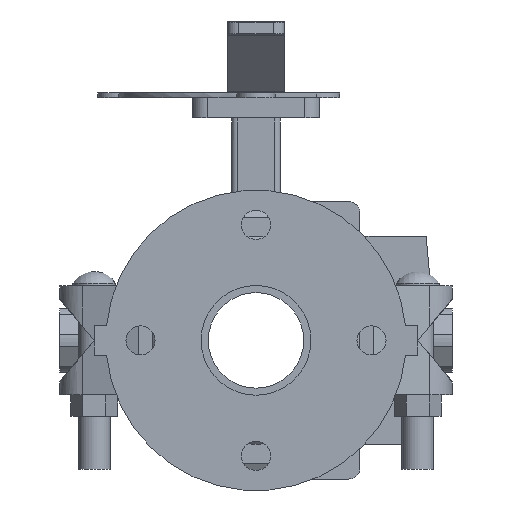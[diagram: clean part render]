
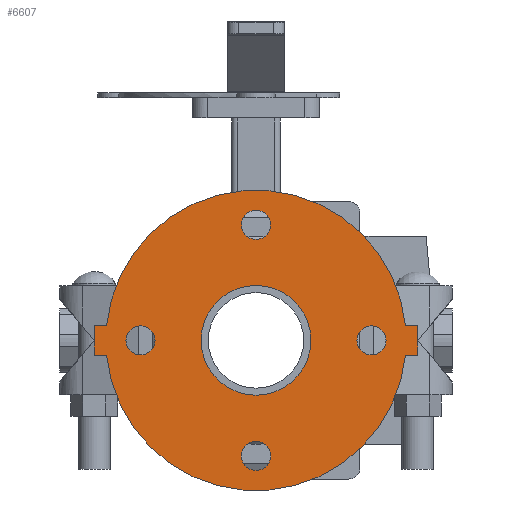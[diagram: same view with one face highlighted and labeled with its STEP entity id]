
A CAD part, front view. The second image highlights one B-rep face of the part: STEP entity #6607.
In plain terms, the highlighted planar face has unit normal (0, -1, 0) as drawn and (0, 0, -1) by its records, which use the part's own axes.
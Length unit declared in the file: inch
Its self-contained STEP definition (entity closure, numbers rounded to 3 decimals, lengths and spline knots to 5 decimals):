
#155=FACE_BOUND('',#809,.T.);
#156=FACE_BOUND('',#810,.T.);
#157=FACE_BOUND('',#811,.T.);
#158=FACE_BOUND('',#812,.T.);
#159=FACE_BOUND('',#813,.T.);
#235=PLANE('',#7158);
#447=FACE_OUTER_BOUND('',#808,.T.);
#808=EDGE_LOOP('',(#4271,#4272,#4273,#4274,#4275,#4276,#4277,#4278));
#809=EDGE_LOOP('',(#4279));
#810=EDGE_LOOP('',(#4280));
#811=EDGE_LOOP('',(#4281));
#812=EDGE_LOOP('',(#4282));
#813=EDGE_LOOP('',(#4283));
#1232=LINE('',#10015,#1742);
#1235=LINE('',#10021,#1745);
#1238=LINE('',#10026,#1748);
#1240=LINE('',#10031,#1750);
#1244=LINE('',#10038,#1754);
#1246=LINE('',#10041,#1756);
#1742=VECTOR('',#7960,0.3937);
#1745=VECTOR('',#7965,0.3937);
#1748=VECTOR('',#7970,0.3937);
#1750=VECTOR('',#7974,0.3937);
#1754=VECTOR('',#7980,0.3937);
#1756=VECTOR('',#7984,0.3937);
#2244=CIRCLE('',#7132,0.315);
#2246=CIRCLE('',#7135,0.315);
#2248=CIRCLE('',#7138,0.315);
#2250=CIRCLE('',#7141,0.315);
#2251=CIRCLE('',#7143,1.1875);
#2253=CIRCLE('',#7146,3.25);
#2256=CIRCLE('',#7150,3.25);
#2625=VERTEX_POINT('',#9968);
#2627=VERTEX_POINT('',#9974);
#2629=VERTEX_POINT('',#9980);
#2631=VERTEX_POINT('',#9986);
#2632=VERTEX_POINT('',#9990);
#2634=VERTEX_POINT('',#9996);
#2636=VERTEX_POINT('',#9999);
#2638=VERTEX_POINT('',#10005);
#2641=VERTEX_POINT('',#10010);
#2642=VERTEX_POINT('',#10014);
#2644=VERTEX_POINT('',#10020);
#2646=VERTEX_POINT('',#10029);
#2647=VERTEX_POINT('',#10030);
#3261=EDGE_CURVE('',#2625,#2625,#2244,.T.);
#3264=EDGE_CURVE('',#2627,#2627,#2246,.T.);
#3267=EDGE_CURVE('',#2629,#2629,#2248,.T.);
#3270=EDGE_CURVE('',#2631,#2631,#2250,.T.);
#3271=EDGE_CURVE('',#2632,#2632,#2251,.T.);
#3275=EDGE_CURVE('',#2634,#2636,#2253,.T.);
#3281=EDGE_CURVE('',#2641,#2638,#2256,.T.);
#3282=EDGE_CURVE('',#2636,#2642,#1232,.T.);
#3285=EDGE_CURVE('',#2644,#2641,#1235,.T.);
#3288=EDGE_CURVE('',#2642,#2644,#1238,.T.);
#3290=EDGE_CURVE('',#2646,#2647,#1240,.T.);
#3294=EDGE_CURVE('',#2638,#2646,#1244,.T.);
#3296=EDGE_CURVE('',#2647,#2634,#1246,.T.);
#4271=ORIENTED_EDGE('',*,*,#3296,.F.);
#4272=ORIENTED_EDGE('',*,*,#3290,.F.);
#4273=ORIENTED_EDGE('',*,*,#3294,.F.);
#4274=ORIENTED_EDGE('',*,*,#3281,.F.);
#4275=ORIENTED_EDGE('',*,*,#3285,.F.);
#4276=ORIENTED_EDGE('',*,*,#3288,.F.);
#4277=ORIENTED_EDGE('',*,*,#3282,.F.);
#4278=ORIENTED_EDGE('',*,*,#3275,.F.);
#4279=ORIENTED_EDGE('',*,*,#3261,.T.);
#4280=ORIENTED_EDGE('',*,*,#3264,.T.);
#4281=ORIENTED_EDGE('',*,*,#3267,.T.);
#4282=ORIENTED_EDGE('',*,*,#3270,.T.);
#4283=ORIENTED_EDGE('',*,*,#3271,.T.);
#6607=ADVANCED_FACE('',(#447,#155,#156,#157,#158,#159),#235,.F.);
#7132=AXIS2_PLACEMENT_3D('',#9970,#7912,#7913);
#7135=AXIS2_PLACEMENT_3D('',#9976,#7919,#7920);
#7138=AXIS2_PLACEMENT_3D('',#9982,#7926,#7927);
#7141=AXIS2_PLACEMENT_3D('',#9988,#7933,#7934);
#7143=AXIS2_PLACEMENT_3D('',#9991,#7937,#7938);
#7146=AXIS2_PLACEMENT_3D('',#10000,#7945,#7946);
#7150=AXIS2_PLACEMENT_3D('',#10012,#7956,#7957);
#7158=AXIS2_PLACEMENT_3D('',#10044,#7988,#7989);
#7912=DIRECTION('center_axis',(0.,0.,1.));
#7913=DIRECTION('ref_axis',(-1.,0.,0.));
#7919=DIRECTION('center_axis',(0.,0.,1.));
#7920=DIRECTION('ref_axis',(0.,1.,0.));
#7926=DIRECTION('center_axis',(0.,0.,1.));
#7927=DIRECTION('ref_axis',(1.,0.,0.));
#7933=DIRECTION('center_axis',(0.,0.,1.));
#7934=DIRECTION('ref_axis',(0.,-1.,0.));
#7937=DIRECTION('center_axis',(0.,0.,1.));
#7938=DIRECTION('ref_axis',(0.,-1.,0.));
#7945=DIRECTION('center_axis',(0.,0.,1.));
#7946=DIRECTION('ref_axis',(0.,1.,0.));
#7956=DIRECTION('center_axis',(0.,0.,1.));
#7957=DIRECTION('ref_axis',(0.,1.,0.));
#7960=DIRECTION('',(0.,-1.,0.));
#7965=DIRECTION('',(0.,1.,0.));
#7970=DIRECTION('',(1.,0.,0.));
#7974=DIRECTION('',(-1.,0.,0.));
#7980=DIRECTION('',(0.,1.,0.));
#7984=DIRECTION('',(0.,-1.,0.));
#7988=DIRECTION('center_axis',(0.,0.,1.));
#7989=DIRECTION('ref_axis',(0.,1.,0.));
#9968=CARTESIAN_POINT('',(0.315,2.5,0.));
#9970=CARTESIAN_POINT('Origin',(0.,2.5,0.));
#9974=CARTESIAN_POINT('',(2.5,-0.315,0.));
#9976=CARTESIAN_POINT('Origin',(2.5,0.,0.));
#9980=CARTESIAN_POINT('',(-0.315,-2.5,0.));
#9982=CARTESIAN_POINT('Origin',(0.,-2.5,0.));
#9986=CARTESIAN_POINT('',(-2.5,0.315,0.));
#9988=CARTESIAN_POINT('Origin',(-2.5,0.,0.));
#9990=CARTESIAN_POINT('',(0.,1.1875,0.));
#9991=CARTESIAN_POINT('Origin',(0.,0.,0.));
#9996=CARTESIAN_POINT('',(-0.32,3.23421,0.));
#9999=CARTESIAN_POINT('',(-0.32,-3.23421,0.));
#10000=CARTESIAN_POINT('Origin',(0.,0.,0.));
#10005=CARTESIAN_POINT('',(0.32,3.23421,0.));
#10010=CARTESIAN_POINT('',(0.32,-3.23421,0.));
#10012=CARTESIAN_POINT('Origin',(0.,0.,0.));
#10014=CARTESIAN_POINT('',(-0.32,-3.5,0.));
#10015=CARTESIAN_POINT('',(-0.32,-3.23421,0.));
#10020=CARTESIAN_POINT('',(0.32,-3.5,0.));
#10021=CARTESIAN_POINT('',(0.32,-3.5,0.));
#10026=CARTESIAN_POINT('',(-0.32,-3.5,0.));
#10029=CARTESIAN_POINT('',(0.32,3.5,0.));
#10030=CARTESIAN_POINT('',(-0.32,3.5,0.));
#10031=CARTESIAN_POINT('',(0.32,3.5,0.));
#10038=CARTESIAN_POINT('',(0.32,3.23421,0.));
#10041=CARTESIAN_POINT('',(-0.32,3.5,0.));
#10044=CARTESIAN_POINT('Origin',(0.,3.38297,
0.));
